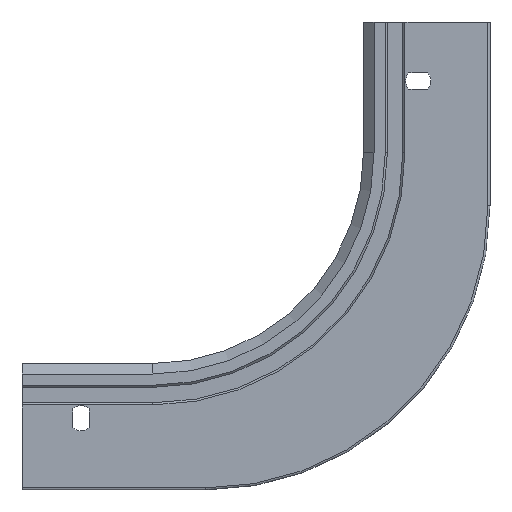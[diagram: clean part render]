
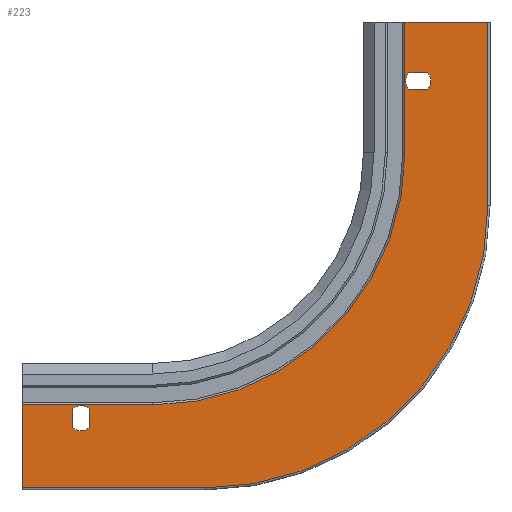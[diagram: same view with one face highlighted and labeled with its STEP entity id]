
A CAD part, left-side view. The second image highlights one B-rep face of the part: STEP entity #223.
In plain terms, the highlighted planar face has unit normal (-1, 0, 0) as drawn and (0, -1, 0) by its records, which use the part's own axes.
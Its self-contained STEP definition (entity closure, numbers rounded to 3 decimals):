
#14 = DIRECTION ( 'NONE',  ( 0., 0., 1. ) ) ;
#59 = CARTESIAN_POINT ( 'NONE',  ( 0., 0., -24. ) ) ;
#79 = DIRECTION ( 'NONE',  ( 0., 1., 0. ) ) ;
#133 = CARTESIAN_POINT ( 'NONE',  ( 34., 0., -28. ) ) ;
#161 = VECTOR ( 'NONE', #4590, 1000. ) ;
#198 = CARTESIAN_POINT ( 'NONE',  ( 0., 0., 0. ) ) ;
#223 = ADVANCED_FACE ( 'NONE', ( #3586, #4080, #3668 ), #2734, .T. ) ;
#235 = ORIENTED_EDGE ( 'NONE', *, *, #3158, .F. ) ;
#243 = VECTOR ( 'NONE', #680, 1000. ) ;
#381 = EDGE_LOOP ( 'NONE', ( #4690, #4980, #1833, #1848 ) ) ;
#384 = DIRECTION ( 'NONE',  ( 1., 0., 0. ) ) ;
#390 = CIRCLE ( 'NONE', #5130, 119.669 ) ;
#394 = CARTESIAN_POINT ( 'NONE',  ( 198., 0., -183.528 ) ) ;
#473 = ORIENTED_EDGE ( 'NONE', *, *, #2165, .F. ) ;
#487 = VERTEX_POINT ( 'NONE', #4242 ) ;
#494 = CARTESIAN_POINT ( 'NONE',  ( 160., 0., -181.669 ) ) ;
#514 = VERTEX_POINT ( 'NONE', #1741 ) ;
#545 = EDGE_CURVE ( 'NONE', #2839, #1502, #390, .T. ) ;
#652 = DIRECTION ( 'NONE',  ( 0., -1., 0. ) ) ;
#680 = DIRECTION ( 'NONE',  ( -1., 0., 0. ) ) ;
#696 = DIRECTION ( 'NONE',  ( 0., 0., -1. ) ) ;
#745 = VECTOR ( 'NONE', #384, 1000. ) ;
#773 = CARTESIAN_POINT ( 'NONE',  ( 222., 0., -222. ) ) ;
#782 = VECTOR ( 'NONE', #1893, 1000. ) ;
#809 = EDGE_CURVE ( 'NONE', #1228, #3041, #4509, .T. ) ;
#866 = ORIENTED_EDGE ( 'NONE', *, *, #2951, .F. ) ;
#889 = CARTESIAN_POINT ( 'NONE',  ( 198., 0., 0. ) ) ;
#890 = DIRECTION ( 'NONE',  ( 0., -1., 0. ) ) ;
#933 = EDGE_CURVE ( 'NONE', #487, #1690, #4443, .T. ) ;
#943 = VERTEX_POINT ( 'NONE', #5240 ) ;
#963 = CARTESIAN_POINT ( 'NONE',  ( 135., 0., -87. ) ) ;
#981 = ORIENTED_EDGE ( 'NONE', *, *, #2371, .F. ) ;
#1023 = AXIS2_PLACEMENT_3D ( 'NONE', #133, #1815, #4810 ) ;
#1115 = LINE ( 'NONE', #2474, #243 ) ;
#1127 = VECTOR ( 'NONE', #5064, 1000. ) ;
#1178 = DIRECTION ( 'NONE',  ( 0., 0., 1. ) ) ;
#1228 = VERTEX_POINT ( 'NONE', #3497 ) ;
#1266 = CARTESIAN_POINT ( 'NONE',  ( 0., 0., -32. ) ) ;
#1275 = LINE ( 'NONE', #2949, #1127 ) ;
#1295 = LINE ( 'NONE', #3461, #4535 ) ;
#1333 = EDGE_CURVE ( 'NONE', #4943, #514, #4273, .T. ) ;
#1405 = EDGE_CURVE ( 'NONE', #2905, #5367, #1731, .T. ) ;
#1427 = ORIENTED_EDGE ( 'NONE', *, *, #4698, .T. ) ;
#1501 = EDGE_CURVE ( 'NONE', #2414, #4943, #1295, .T. ) ;
#1502 = VERTEX_POINT ( 'NONE', #494 ) ;
#1620 = DIRECTION ( 'NONE',  ( 0., 0., -1. ) ) ;
#1631 = LINE ( 'NONE', #889, #3775 ) ;
#1658 = DIRECTION ( 'NONE',  ( 0., 0., -1. ) ) ;
#1678 = LINE ( 'NONE', #3796, #4903 ) ;
#1690 = VERTEX_POINT ( 'NONE', #2748 ) ;
#1704 = LINE ( 'NONE', #773, #161 ) ;
#1727 = CARTESIAN_POINT ( 'NONE',  ( 1., 0., 0. ) ) ;
#1731 = CIRCLE ( 'NONE', #1821, 6. ) ;
#1741 = CARTESIAN_POINT ( 'NONE',  ( 198., 0., -192.472 ) ) ;
#1774 = EDGE_CURVE ( 'NONE', #3041, #3052, #3392, .T. ) ;
#1815 = DIRECTION ( 'NONE',  ( 0., -1., 0. ) ) ;
#1821 = AXIS2_PLACEMENT_3D ( 'NONE', #3745, #5418, #1658 ) ;
#1833 = ORIENTED_EDGE ( 'NONE', *, *, #1774, .F. ) ;
#1843 = DIRECTION ( 'NONE',  ( 0., 0., -1. ) ) ;
#1848 = ORIENTED_EDGE ( 'NONE', *, *, #809, .F. ) ;
#1878 = CARTESIAN_POINT ( 'NONE',  ( 38.472, 0., -24. ) ) ;
#1888 = AXIS2_PLACEMENT_3D ( 'NONE', #198, #3170, #2759 ) ;
#1893 = DIRECTION ( 'NONE',  ( 1., 0., 0. ) ) ;
#1950 = CARTESIAN_POINT ( 'NONE',  ( 190., 0., -192.472 ) ) ;
#2165 = EDGE_CURVE ( 'NONE', #5367, #2414, #3845, .T. ) ;
#2215 = DIRECTION ( 'NONE',  ( 0., 0., 1. ) ) ;
#2256 = LINE ( 'NONE', #4772, #782 ) ;
#2295 = VERTEX_POINT ( 'NONE', #3622 ) ;
#2332 = ORIENTED_EDGE ( 'NONE', *, *, #4893, .F. ) ;
#2371 = EDGE_CURVE ( 'NONE', #2295, #487, #1115, .T. ) ;
#2414 = VERTEX_POINT ( 'NONE', #2824 ) ;
#2445 = EDGE_LOOP ( 'NONE', ( #3729, #4511, #473, #4787, #3993 ) ) ;
#2474 = CARTESIAN_POINT ( 'NONE',  ( 222., 0., -221. ) ) ;
#2608 = ORIENTED_EDGE ( 'NONE', *, *, #545, .F. ) ;
#2639 = CARTESIAN_POINT ( 'NONE',  ( 194., 0., -188. ) ) ;
#2694 = AXIS2_PLACEMENT_3D ( 'NONE', #3941, #4019, #696 ) ;
#2734 = PLANE ( 'NONE',  #1888 ) ;
#2748 = CARTESIAN_POINT ( 'NONE',  ( 1., 0., -87. ) ) ;
#2759 = DIRECTION ( 'NONE',  ( 0., 0., -1. ) ) ;
#2824 = CARTESIAN_POINT ( 'NONE',  ( 190., 0., -183.528 ) ) ;
#2839 = VERTEX_POINT ( 'NONE', #5013 ) ;
#2854 = DIRECTION ( 'NONE',  ( 0., -1., 0. ) ) ;
#2905 = VERTEX_POINT ( 'NONE', #394 ) ;
#2949 = CARTESIAN_POINT ( 'NONE',  ( 160., 0., -181.669 ) ) ;
#2951 = EDGE_CURVE ( 'NONE', #1502, #943, #1275, .T. ) ;
#3041 = VERTEX_POINT ( 'NONE', #5144 ) ;
#3052 = VERTEX_POINT ( 'NONE', #1878 ) ;
#3077 = VERTEX_POINT ( 'NONE', #4677 ) ;
#3143 = VECTOR ( 'NONE', #4579, 1000. ) ;
#3158 = EDGE_CURVE ( 'NONE', #1690, #4743, #4402, .T. ) ;
#3170 = DIRECTION ( 'NONE',  ( 0., -1., 0. ) ) ;
#3383 = CARTESIAN_POINT ( 'NONE',  ( 160., 0., -62. ) ) ;
#3392 = CIRCLE ( 'NONE', #1023, 6. ) ;
#3461 = CARTESIAN_POINT ( 'NONE',  ( 190., 0., 0. ) ) ;
#3497 = CARTESIAN_POINT ( 'NONE',  ( 29.528, 0., -32. ) ) ;
#3586 = FACE_BOUND ( 'NONE', #381, .T. ) ;
#3622 = CARTESIAN_POINT ( 'NONE',  ( 222., 0., -221. ) ) ;
#3668 = FACE_OUTER_BOUND ( 'NONE', #5347, .T. ) ;
#3729 = ORIENTED_EDGE ( 'NONE', *, *, #1333, .F. ) ;
#3745 = CARTESIAN_POINT ( 'NONE',  ( 194., 0., -188. ) ) ;
#3758 = AXIS2_PLACEMENT_3D ( 'NONE', #2639, #652, #1843 ) ;
#3775 = VECTOR ( 'NONE', #5420, 1000. ) ;
#3796 = CARTESIAN_POINT ( 'NONE',  ( 40.331, 0., -62. ) ) ;
#3845 = CIRCLE ( 'NONE', #3758, 6. ) ;
#3856 = DIRECTION ( 'NONE',  ( 0., 0., -1. ) ) ;
#3941 = CARTESIAN_POINT ( 'NONE',  ( 194., 0., -188. ) ) ;
#3993 = ORIENTED_EDGE ( 'NONE', *, *, #4541, .F. ) ;
#4019 = DIRECTION ( 'NONE',  ( 0., -1., 0. ) ) ;
#4080 = FACE_BOUND ( 'NONE', #2445, .T. ) ;
#4119 = AXIS2_PLACEMENT_3D ( 'NONE', #4561, #2854, #1620 ) ;
#4140 = EDGE_CURVE ( 'NONE', #3052, #3077, #5099, .T. ) ;
#4173 = CARTESIAN_POINT ( 'NONE',  ( 40.331, 0., 0. ) ) ;
#4242 = CARTESIAN_POINT ( 'NONE',  ( 135., 0., -221. ) ) ;
#4273 = CIRCLE ( 'NONE', #2694, 6. ) ;
#4364 = ORIENTED_EDGE ( 'NONE', *, *, #5281, .F. ) ;
#4402 = LINE ( 'NONE', #4948, #5165 ) ;
#4443 = CIRCLE ( 'NONE', #4616, 134. ) ;
#4509 = LINE ( 'NONE', #1266, #745 ) ;
#4511 = ORIENTED_EDGE ( 'NONE', *, *, #1501, .F. ) ;
#4535 = VECTOR ( 'NONE', #3856, 1000. ) ;
#4541 = EDGE_CURVE ( 'NONE', #514, #2905, #1631, .T. ) ;
#4561 = CARTESIAN_POINT ( 'NONE',  ( 34., 0., -28. ) ) ;
#4579 = DIRECTION ( 'NONE',  ( -1., 0., 0. ) ) ;
#4590 = DIRECTION ( 'NONE',  ( 0., 0., -1. ) ) ;
#4616 = AXIS2_PLACEMENT_3D ( 'NONE', #963, #79, #2215 ) ;
#4661 = EDGE_CURVE ( 'NONE', #3077, #1228, #5434, .T. ) ;
#4677 = CARTESIAN_POINT ( 'NONE',  ( 29.528, 0., -24. ) ) ;
#4690 = ORIENTED_EDGE ( 'NONE', *, *, #4661, .F. ) ;
#4698 = EDGE_CURVE ( 'NONE', #2839, #4759, #1678, .T. ) ;
#4743 = VERTEX_POINT ( 'NONE', #1727 ) ;
#4759 = VERTEX_POINT ( 'NONE', #4173 ) ;
#4772 = CARTESIAN_POINT ( 'NONE',  ( 40., 0., 0. ) ) ;
#4787 = ORIENTED_EDGE ( 'NONE', *, *, #1405, .F. ) ;
#4810 = DIRECTION ( 'NONE',  ( 0., 0., -1. ) ) ;
#4893 = EDGE_CURVE ( 'NONE', #4743, #4759, #2256, .T. ) ;
#4903 = VECTOR ( 'NONE', #14, 1000. ) ;
#4943 = VERTEX_POINT ( 'NONE', #1950 ) ;
#4948 = CARTESIAN_POINT ( 'NONE',  ( 1., 0., -87. ) ) ;
#4980 = ORIENTED_EDGE ( 'NONE', *, *, #4140, .F. ) ;
#5013 = CARTESIAN_POINT ( 'NONE',  ( 40.331, 0., -62. ) ) ;
#5062 = DIRECTION ( 'NONE',  ( 0., 0., -1. ) ) ;
#5064 = DIRECTION ( 'NONE',  ( 1., 0., 0. ) ) ;
#5099 = LINE ( 'NONE', #59, #3143 ) ;
#5130 = AXIS2_PLACEMENT_3D ( 'NONE', #3383, #890, #5062 ) ;
#5144 = CARTESIAN_POINT ( 'NONE',  ( 38.472, 0., -32. ) ) ;
#5165 = VECTOR ( 'NONE', #1178, 1000. ) ;
#5226 = ORIENTED_EDGE ( 'NONE', *, *, #933, .F. ) ;
#5240 = CARTESIAN_POINT ( 'NONE',  ( 222., 0., -181.669 ) ) ;
#5281 = EDGE_CURVE ( 'NONE', #943, #2295, #1704, .T. ) ;
#5347 = EDGE_LOOP ( 'NONE', ( #235, #5226, #981, #4364, #866, #2608, #1427, #2332 ) ) ;
#5367 = VERTEX_POINT ( 'NONE', #5388 ) ;
#5388 = CARTESIAN_POINT ( 'NONE',  ( 194., 0., -182. ) ) ;
#5418 = DIRECTION ( 'NONE',  ( 0., -1., 0. ) ) ;
#5420 = DIRECTION ( 'NONE',  ( 0., 0., 1. ) ) ;
#5434 = CIRCLE ( 'NONE', #4119, 6. ) ;
